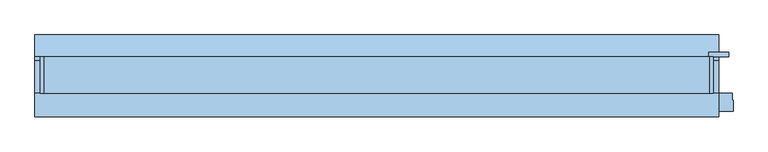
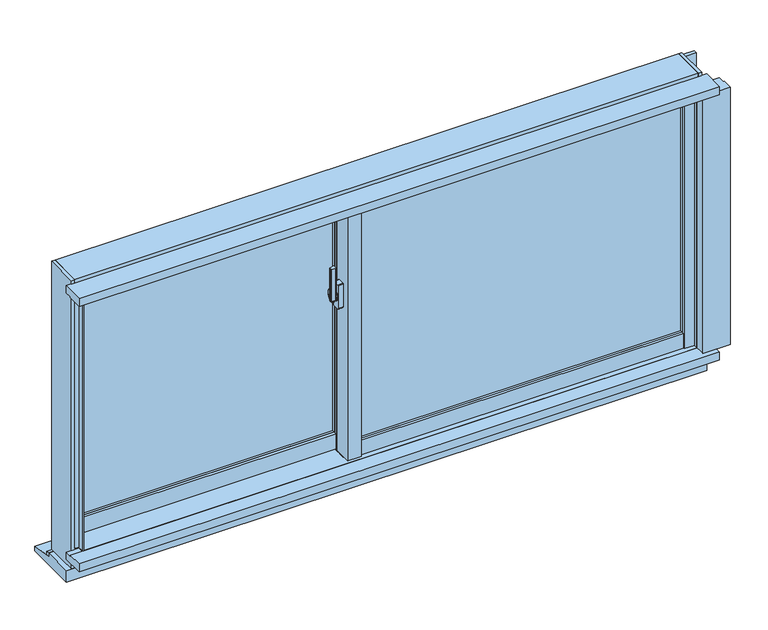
"""IFC4 building model written with IfcOpenShell, lengths in millimetres: window geometry, FNSⅡ100R_個別防火_RC枠_単窓 : 外動片引."""

from ifc_helpers import new_model, si_unit, point, frame, frame_2d, origin, place, context, project, spatial, polyline, circle_curve, trimmed, segment, composite_curve, outline, extrude, faceted_brep, source, transform, mapped, element, save
from ifc_brep_helpers import plane_surface, cylinder_surface, revolved_surface, advanced_brep


def window_cb9461ae(model_context):
    return source(origin(), model_context, "Body", "SolidModel", [
        extrude(outline(composite_curve([segment(polyline([(-139.0, -20.4), (-139.0, -28.6)]), True, "CONTINUOUS"), segment(trimmed(circle_curve(frame_2d((-141.0, -28.6)), 2.0), [point((-139.0, -28.6))], [point((-141.3606557, -30.5672131))], False, "CARTESIAN"), True, "CONTINUOUS"), segment(polyline([(-141.3606557, -30.5672131), (-152.3606557, -28.5505464)]), True, "CONTINUOUS"), segment(trimmed(circle_curve(frame_2d((-152.0, -26.5833333)), 2.0), [point((-152.3606557, -28.5505464))], [point((-154.0, -26.5833333))], False, "CARTESIAN"), True, "CONTINUOUS"), segment(polyline([(-154.0, -26.5833333), (-154.0, -22.4166667)]), True, "CONTINUOUS"), segment(trimmed(circle_curve(frame_2d((-152.0, -22.4166667)), 2.0), [point((-154.0, -22.4166667))], [point((-152.3606557, -20.4494536))], False, "CARTESIAN"), True, "CONTINUOUS"), segment(polyline([(-152.3606557, -20.4494536), (-141.3606557, -18.4327869)]), True, "CONTINUOUS"), segment(trimmed(circle_curve(frame_2d((-141.0, -20.4)), 2.0), [point((-141.3606557, -18.4327869))], [point((-139.0, -20.4))], False, "CARTESIAN"), True, "CONTINUOUS")], self_intersect=False)), frame((0.0, 0.0, 1390.0), z_axis=(0.0, 0.0, 1.0), x_axis=(1.0, 0.0, 0.0)), (0.0, 0.0, 1.0), 100.0),
        advanced_brep(
        [(-137.5, -16.1765715, 1421.7333311), (-145.5, -16.1765715, 1421.7333311), (-145.5, -16.5648001, 1420.2844424), (-139.0, -16.5648001, 1420.2844424), (-139.0, -18.3765334, 1413.5229616), (-137.5, -18.3765334, 1413.5229616), (-139.0, -18.3533883, 1379.3190372), (-145.5, -18.3533883, 1379.3190372), (-145.5, -18.092916, 1377.8418256), (-137.5, -18.092916, 1377.8418256), (-137.5, -19.5689255, 1386.2126915), (-139.0, -19.5689255, 1386.2126915)],
        [
            (0, 1),
            (1, 2),
            (2, 3),
            (3, 4),
            (4, 5),
            (5, 0),
            (6, 7),
            (7, 8),
            (8, 9),
            (9, 10),
            (10, 11),
            (11, 6),
            (0, 9, circle_curve(frame((-137.5, -22.0, 1400.0), z_axis=(-1.0, 0.0, 0.0), x_axis=(0.0, 0.25881904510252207, 0.965925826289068)), 22.5)),
            (8, 1, circle_curve(frame((-145.5, -22.0, 1400.0), z_axis=(1.0, 0.0, 0.0), x_axis=(0.0, 0.25881904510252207, 0.965925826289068)), 22.5)),
            (7, 2, circle_curve(frame((-145.5, -22.0, 1400.0), z_axis=(1.0, 0.0, 0.0), x_axis=(0.0, 0.25881904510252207, 0.965925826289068)), 21.0)),
            (6, 3, circle_curve(frame((-139.0, -22.0, 1400.0), z_axis=(1.0, 0.0, 0.0), x_axis=(0.0, 0.25881904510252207, 0.965925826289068)), 21.0)),
            (11, 4, circle_curve(frame((-139.0, -22.0, 1400.0), z_axis=(-1.0, 0.0, 0.0), x_axis=(0.0, -1.0, 0.0)), 14.0)),
            (5, 10, circle_curve(frame((-137.5, -22.0, 1400.0), z_axis=(1.0, 0.0, 0.0), x_axis=(0.0, -1.0, 0.0)), 14.0)),
        ],
        [
            plane_surface(frame((-143.5470497, -22.0, 1400.0), z_axis=(0.0, -0.965925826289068, 0.25881904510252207), x_axis=(0.0, 0.25881904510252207, 0.965925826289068))),
            plane_surface(frame((-143.5470497, -22.0, 1400.0), z_axis=(0.0, -0.9848077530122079, -0.17364817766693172), x_axis=(0.0, 0.17364817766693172, -0.9848077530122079))),
            cylinder_surface(frame((-143.5470497, -22.0, 1400.0), z_axis=(-1.0, 0.0, 0.0), x_axis=(0.0, 0.25881904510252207, 0.965925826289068)), 22.5),
            plane_surface(frame((-145.5, -22.0, 1400.0), z_axis=(-1.0, 0.0, 0.0), x_axis=(0.0, 0.25881904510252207, 0.965925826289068))),
            revolved_surface(polyline([(-145.5, -16.564800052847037, 1420.2844423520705), (-139.0, -16.564800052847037, 1420.2844423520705)]), (-143.5470497, -22.0, 1400.0), (-1.0, 0.0, 0.0)),
            plane_surface(frame((-139.0, -22.0, 1400.0), z_axis=(-1.0, 0.0, 0.0), x_axis=(0.0, 0.25881904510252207, 0.965925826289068))),
            plane_surface(frame((-137.5, -22.0, 1400.0), z_axis=(1.0, 0.0, 0.0), x_axis=(0.0, 0.25881904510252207, 0.965925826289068))),
            cylinder_surface(frame((-137.5, -22.0, 1400.0), z_axis=(-1.0, 0.0, 0.0), x_axis=(0.0, -1.0, 0.0)), 14.0),
        ],
        [
            (0, [[1, 2, 3, 4, 5, 6]]),
            (1, [[7, 8, 9, 10, 11, 12]]),
            (2, [[-1, 13, -9, 14]]),
            (3, [[-2, -14, -8, 15]]),
            (4, [[-3, -15, -7, 16]]),
            (5, [[-16, -12, 17, -4]]),
            (6, [[-13, -6, 18, -10]]),
            (7, [[-17, -11, -18, -5]]),
        ],
    ),
        extrude(outline(composite_curve([segment(trimmed(circle_curve(frame_2d((-22.0, 1400.0)), 11.5), [point((-10.5, 1400.0))], [point((-33.5, 1400.0))], False, "CARTESIAN"), True, "CONTINUOUS"), segment(trimmed(circle_curve(frame_2d((-22.0, 1400.0)), 11.5), [point((-33.5, 1400.0))], [point((-10.5, 1400.0))], False, "CARTESIAN"), True, "CONTINUOUS")], self_intersect=False)), frame((-137.5, 0.0, 0.0), z_axis=(1.0, 0.0, 0.0), x_axis=(0.0, 1.0, 0.0)), (0.0, 0.0, 1.0), 2.5),
        extrude(outline(composite_curve([segment(polyline([(-31.0, 1437.5), (-13.0, 1437.5)]), True, "CONTINUOUS"), segment(trimmed(circle_curve(frame_2d((-13.0, 1435.5)), 2.0), [point((-13.0, 1437.5))], [point((-11.0, 1435.5))], False, "CARTESIAN"), True, "CONTINUOUS"), segment(polyline([(-11.0, 1435.5), (-11.0, 1364.5)]), True, "CONTINUOUS"), segment(trimmed(circle_curve(frame_2d((-13.0, 1364.5)), 2.0), [point((-11.0, 1364.5))], [point((-13.0, 1362.5))], False, "CARTESIAN"), True, "CONTINUOUS"), segment(polyline([(-13.0, 1362.5), (-31.0, 1362.5)]), True, "CONTINUOUS"), segment(trimmed(circle_curve(frame_2d((-31.0, 1364.5)), 2.0), [point((-31.0, 1362.5))], [point((-33.0, 1364.5))], False, "CARTESIAN"), True, "CONTINUOUS"), segment(polyline([(-33.0, 1364.5), (-33.0, 1435.5)]), True, "CONTINUOUS"), segment(trimmed(circle_curve(frame_2d((-31.0, 1435.5)), 2.0), [point((-33.0, 1435.5))], [point((-31.0, 1437.5))], False, "CARTESIAN"), True, "CONTINUOUS")], self_intersect=False)), frame((-135.0, 0.0, 0.0), z_axis=(1.0, 0.0, 0.0), x_axis=(0.0, 1.0, 0.0)), (0.0, 0.0, 1.0), 15.0),
        extrude(outline(polyline([(-80.0, -31.0), (868.0, -31.0), (868.0, -37.0), (-80.0, -37.0), (-80.0, -31.0)])), frame((0.0, 0.0, 948.0), z_axis=(0.0, 0.0, 1.0), x_axis=(1.0, 0.0, 0.0)), (0.0, 0.0, 1.0), 712.0),
        extrude(outline(polyline([(-80.0, -13.0), (868.0, -13.0), (868.0, -19.0), (-80.0, -19.0), (-80.0, -13.0)])), frame((0.0, 0.0, 948.0), z_axis=(0.0, 0.0, 1.0), x_axis=(1.0, 0.0, 0.0)), (0.0, 0.0, 1.0), 712.0),
        extrude(outline(polyline([(-868.0, 27.0), (-120.0, 27.0), (-120.0, 21.0), (-868.0, 21.0), (-868.0, 27.0)])), frame((0.0, 0.0, 948.0), z_axis=(0.0, 0.0, 1.0), x_axis=(1.0, 0.0, 0.0)), (0.0, 0.0, 1.0), 712.0),
        extrude(outline(polyline([(-868.0, 45.0), (-120.0, 45.0), (-120.0, 39.0), (-868.0, 39.0), (-868.0, 45.0)])), frame((0.0, 0.0, 948.0), z_axis=(0.0, 0.0, 1.0), x_axis=(1.0, 0.0, 0.0)), (0.0, 0.0, 1.0), 712.0),
        faceted_brep([(-900.0, 24.0, 1700.0), (-889.5, 24.0, 1700.0), (-889.5, 11.0, 1700.0), (-868.0, 11.0, 1700.0), (-868.0, 53.0, 1700.0), (-900.0, 53.0, 1700.0), (-868.0, 24.0, 860.0), (-900.0, 24.0, 860.0), (-900.0, 53.0, 860.0), (-868.0, 53.0, 860.0), (-868.0, 24.0, 900.0), (-889.5, 24.0, 900.0), (-889.5, 11.0, 900.0), (-868.0, 11.0, 900.0)], [[[0, 1, 2, 3, 4, 5]], [[6, 7, 8, 9]], [[1, 0, 7, 6, 10, 11]], [[2, 1, 11, 12]], [[3, 2, 12, 13]], [[4, 3, 13, 10, 6, 9]], [[5, 4, 9, 8]], [[7, 0, 5, 8]], [[11, 10, 13, 12]]]),
        faceted_brep([(-80.0, 24.0, 900.0), (-120.0, 24.0, 900.0), (-120.0, 24.0, 860.0), (-80.0, 24.0, 860.0), (-120.0, 10.5, 1700.0), (-101.8, 10.5, 1700.0), (-101.8, -1.9, 1700.0), (-80.0, -1.9, 1700.0), (-80.0, 53.0, 1700.0), (-120.0, 53.0, 1700.0), (-120.0, 53.0, 860.0), (-80.0, 53.0, 860.0), (-120.0, 10.5, 900.0), (-101.8, 10.5, 900.0), (-101.8, -1.9, 900.0), (-80.0, -1.9, 900.0)], [[[0, 1, 2, 3]], [[4, 5, 6, 7, 8, 9]], [[10, 11, 3, 2]], [[5, 4, 12, 13]], [[6, 5, 13, 14]], [[7, 6, 14, 15]], [[8, 7, 15, 0, 3, 11]], [[9, 8, 11, 10]], [[4, 9, 10, 2, 1, 12]], [[1, 0, 15, 14, 13, 12]]]),
        extrude(outline(polyline([(-120.0, -1.9), (-115.0, -1.9), (-115.0, -47.0), (-82.6, -47.0), (-82.6, -43.0), (-80.0, -43.0), (-80.0, -55.0), (-120.0, -55.0), (-120.0, -1.9)])), frame((0.0, 0.0, 900.0), z_axis=(0.0, 0.0, 1.0), x_axis=(1.0, 0.0, 0.0)), (0.0, 0.0, 1.0), 800.0),
        extrude(outline(polyline([(-115.0, -1.9), (-80.0, -1.9), (-80.0, -43.0), (-82.6, -43.0), (-82.6, -47.0), (-115.0, -47.0), (-115.0, -1.9)])), frame((0.0, 0.0, 900.0), z_axis=(0.0, 0.0, 1.0), x_axis=(1.0, 0.0, 0.0)), (0.0, 0.0, 1.0), 800.0),
        extrude(outline(polyline([(868.0, -55.0), (868.0, -47.0), (889.5, -47.0), (889.5, -34.0), (897.0, -34.0), (897.0, -55.0), (868.0, -55.0)])), frame((0.0, 0.0, 903.0), z_axis=(0.0, 0.0, 1.0), x_axis=(1.0, 0.0, 0.0)), (0.0, 0.0, 1.0), 797.0),
        extrude(outline(polyline([(868.0, -5.0), (900.0, -5.0), (900.0, -34.0), (889.5, -34.0), (889.5, -47.0), (868.0, -47.0), (868.0, -5.0)])), frame((0.0, 0.0, 900.0), z_axis=(0.0, 0.0, 1.0), x_axis=(1.0, 0.0, 0.0)), (0.0, 0.0, 1.0), 800.0),
        extrude(outline(polyline([(-101.8, 10.5), (-101.8, 3.0), (-120.0, 3.0), (-120.0, 10.5), (-101.8, 10.5)])), frame((0.0, 0.0, 900.0), z_axis=(0.0, 0.0, 1.0), x_axis=(1.0, 0.0, 0.0)), (0.0, 0.0, 1.0), 800.0),
        extrude(outline(polyline([(-897.0, 24.0), (-889.5, 24.0), (-889.5, 11.0), (-868.0, 11.0), (-868.0, 3.0), (-897.0, 3.0), (-897.0, 24.0)])), frame((0.0, 0.0, 900.0), z_axis=(0.0, 0.0, 1.0), x_axis=(1.0, 0.0, 0.0)), (0.0, 0.0, 1.0), 800.0),
        extrude(outline(polyline([(-53.0, 903.0), (-53.0, 948.0), (-45.0, 948.0), (-45.0, 925.5), (-34.0, 925.5), (-34.0, 903.0), (-53.0, 903.0)])), frame((-80.0, 0.0, 0.0), z_axis=(1.0, 0.0, 0.0), x_axis=(0.0, 1.0, 0.0)), (0.0, 0.0, 1.0), 948.0),
        extrude(outline(polyline([(-5.0, 900.0), (-34.0, 900.0), (-34.0, 925.5), (-45.0, 925.5), (-45.0, 948.0), (-5.0, 948.0), (-5.0, 900.0)])), frame((-80.0, 0.0, 0.0), z_axis=(1.0, 0.0, 0.0), x_axis=(0.0, 1.0, 0.0)), (0.0, 0.0, 1.0), 948.0),
        extrude(outline(polyline([(5.0, 948.0), (13.0, 948.0), (13.0, 925.5), (24.0, 925.5), (24.0, 900.0), (5.0, 900.0), (5.0, 948.0)])), frame((-868.0, 0.0, 0.0), z_axis=(1.0, 0.0, 0.0), x_axis=(0.0, 1.0, 0.0)), (0.0, 0.0, 1.0), 748.0),
        extrude(outline(polyline([(53.0, 860.0), (24.0, 860.0), (24.0, 925.5), (13.0, 925.5), (13.0, 948.0), (53.0, 948.0), (53.0, 860.0)])), frame((-868.0, 0.0, 0.0), z_axis=(1.0, 0.0, 0.0), x_axis=(0.0, 1.0, 0.0)), (0.0, 0.0, 1.0), 748.0),
        extrude(outline(polyline([(-32.0, 1680.5), (-45.0, 1680.5), (-45.0, 1660.0), (-53.0, 1660.0), (-53.0, 1700.0), (-32.0, 1700.0), (-32.0, 1680.5)])), frame((-80.0, 0.0, 0.0), z_axis=(1.0, 0.0, 0.0), x_axis=(0.0, 1.0, 0.0)), (0.0, 0.0, 1.0), 948.0),
        extrude(outline(polyline([(-5.0, 1700.0), (-5.0, 1660.0), (-45.0, 1660.0), (-45.0, 1680.5), (-32.0, 1680.5), (-32.0, 1700.0), (-5.0, 1700.0)])), frame((-80.0, 0.0, 0.0), z_axis=(1.0, 0.0, 0.0), x_axis=(0.0, 1.0, 0.0)), (0.0, 0.0, 1.0), 948.0),
        extrude(outline(polyline([(26.0, 1680.5), (13.0, 1680.5), (13.0, 1660.0), (5.0, 1660.0), (5.0, 1700.0), (26.0, 1700.0), (26.0, 1680.5)])), frame((-868.0, 0.0, 0.0), z_axis=(1.0, 0.0, 0.0), x_axis=(0.0, 1.0, 0.0)), (0.0, 0.0, 1.0), 748.0),
        extrude(outline(polyline([(53.0, 1700.0), (53.0, 1660.0), (13.0, 1660.0), (13.0, 1680.5), (26.0, 1680.5), (26.0, 1700.0), (53.0, 1700.0)])), frame((-868.0, 0.0, 0.0), z_axis=(1.0, 0.0, 0.0), x_axis=(0.0, 1.0, 0.0)), (0.0, 0.0, 1.0), 748.0),
        extrude(outline(polyline([(-122.0, 25.3), (-122.0, -23.1), (-900.0, -23.1), (-900.0, 25.3), (-122.0, 25.3)])), frame((0.0, 0.0, 1700.0), z_axis=(0.0, 0.0, 1.0), x_axis=(1.0, 0.0, 0.0)), (0.0, 0.0, 1.0), 25.0),
        faceted_brep([(915.0, 25.3, 1725.0), (915.0, -45.0, 1725.0), (-915.0, -45.0, 1725.0), (-915.0, 25.3, 1725.0), (-122.0, 25.3, 1725.0), (-122.0, -23.1, 1725.0), (900.0, -23.1, 1725.0), (900.0, 25.3, 1725.0), (915.0, 25.3, 1700.0), (900.0, 25.3, 1700.0), (-915.0, 25.3, 1700.0), (-122.0, 25.3, 1700.0), (915.0, 55.0, 1700.0), (900.0, -23.1, 1700.0), (-122.0, -23.1, 1700.0), (-915.0, 55.0, 1700.0), (915.0, 55.0, 1735.0), (-915.0, 55.0, 1735.0), (915.0, -45.0, 1735.0), (-915.0, -45.0, 1735.0)], [[[0, 1, 2, 3, 4, 5, 6, 7]], [[8, 0, 7, 9]], [[3, 10, 11, 4]], [[12, 8, 9, 13, 14, 11, 10, 15]], [[16, 12, 15, 17]], [[18, 16, 17, 19]], [[1, 18, 19, 2]], [[12, 16, 18, 1, 0, 8]], [[15, 10, 3, 2, 19, 17]], [[6, 13, 9, 7]], [[11, 14, 5, 4]], [[13, 6, 5, 14]]]),
        extrude(outline(polyline([(-23.1, 1700.0), (-65.0, 1700.0), (-65.0, 1703.0), (-45.0, 1703.0), (-45.0, 1725.0), (-23.1, 1725.0), (-23.1, 1700.0)])), frame((-900.0, 0.0, 0.0), z_axis=(1.0, 0.0, 0.0), x_axis=(0.0, 1.0, 0.0)), (0.0, 0.0, 1.0), 1800.0),
        faceted_brep([(900.0, -45.0, 1720.0), (915.0, -45.0, 1720.0), (915.0, -40.5, 1720.0), (900.0, -40.5, 1720.0), (900.0, -65.0, 900.0), (900.0, -40.5, 900.0), (915.0, -40.5, 900.0), (915.0, -45.0, 900.0), (903.0, -45.0, 900.0), (903.0, -65.0, 900.0), (903.0, -65.0, 1703.0), (900.0, -65.0, 1703.0), (903.0, -45.0, 1703.0), (900.0, -45.0, 1703.0)], [[[0, 1, 2, 3]], [[4, 5, 6, 7, 8, 9]], [[4, 9, 10, 11]], [[9, 8, 12, 10]], [[0, 13, 12, 8, 7, 1]], [[2, 1, 7, 6]], [[3, 2, 6, 5]], [[5, 4, 11, 13, 0, 3]], [[12, 13, 11, 10]]]),
        faceted_brep([(-915.0, -45.0, 1720.0), (-900.0, -45.0, 1720.0), (-900.0, 21.0, 1720.0), (-915.0, 21.0, 1720.0), (-915.0, -45.0, 900.0), (-915.0, 21.0, 900.0), (-900.0, 21.0, 900.0), (-900.0, -65.0, 900.0), (-903.0, -65.0, 900.0), (-903.0, -45.0, 900.0), (-903.0, -45.0, 1703.0), (-900.0, -45.0, 1703.0), (-903.0, -65.0, 1703.0), (-900.0, -65.0, 1703.0)], [[[0, 1, 2, 3]], [[4, 5, 6, 7, 8, 9]], [[4, 9, 10, 11, 1, 0]], [[9, 8, 12, 10]], [[8, 7, 13, 12]], [[7, 6, 2, 1, 11, 13]], [[3, 2, 6, 5]], [[4, 0, 3, 5]], [[11, 10, 12, 13]]]),
        faceted_brep([(-925.0, 55.0, 1735.0), (-925.0, -45.0, 1735.0), (-915.0, -45.0, 1735.0), (-915.0, 55.0, 1735.0), (-925.0, 55.0, 840.0), (-915.0, 55.0, 840.0), (-915.0, -45.0, 840.0), (-925.0, -45.0, 840.0), (-915.0, 55.0, 849.0), (-915.0, 21.0, 849.0), (-915.0, 21.0, 1700.0), (-915.0, 55.0, 1700.0), (-900.0, 55.0, 1700.0), (-900.0, 55.0, 849.0), (-900.0, 21.0, 1700.0), (-900.0, 21.0, 849.0)], [[[0, 1, 2, 3]], [[4, 5, 6, 7]], [[1, 0, 4, 7]], [[2, 1, 7, 6]], [[3, 2, 6, 5, 8, 9, 10, 11]], [[0, 3, 11, 12, 13, 8, 5, 4]], [[12, 11, 10, 14]], [[13, 15, 9, 8]], [[14, 10, 9, 15]], [[12, 14, 15, 13]]]),
        faceted_brep([(915.0, -45.0, 1735.0), (925.0, -45.0, 1735.0), (925.0, 55.0, 1735.0), (915.0, 55.0, 1735.0), (915.0, -45.0, 840.0), (915.0, 55.0, 840.0), (925.0, 55.0, 840.0), (925.0, -45.0, 840.0), (915.0, -40.5, 1700.0), (900.0, -40.5, 1700.0), (900.0, -40.5, 849.0), (915.0, -40.5, 849.0), (900.0, 55.0, 1700.0), (900.0, 55.0, 849.0), (915.0, 55.0, 1700.0), (915.0, 55.0, 849.0)], [[[0, 1, 2, 3]], [[4, 5, 6, 7]], [[8, 9, 10, 11]], [[9, 12, 13, 10]], [[9, 8, 14, 12]], [[10, 13, 15, 11]], [[1, 0, 4, 7]], [[2, 1, 7, 6]], [[3, 2, 6, 5, 15, 13, 12, 14]], [[0, 3, 14, 8, 11, 15, 5, 4]]]),
        faceted_brep([(900.0, -17.75, 900.0), (900.0, -17.75, 884.0), (-122.0, -17.75, 884.0), (-122.0, -17.75, 900.0), (915.0, -45.0, 884.0), (915.0, 21.0, 884.0), (-915.0, 21.0, 884.0), (-915.0, -45.0, 884.0), (900.0, -36.2, 884.0), (-122.0, -36.2, 884.0), (915.0, 21.0, 849.0), (-915.0, 21.0, 849.0), (915.0, 55.0, 849.0), (-915.0, 55.0, 849.0), (915.0, 55.0, 840.0), (915.0, -45.0, 840.0), (-915.0, -45.0, 840.0), (-915.0, 55.0, 840.0), (900.0, -36.2, 900.0), (-122.0, -36.2, 900.0)], [[[0, 1, 2, 3]], [[4, 5, 6, 7], [1, 8, 9, 2]], [[5, 10, 11, 6]], [[10, 12, 13, 11]], [[14, 15, 16, 17]], [[14, 12, 10, 5, 4, 15]], [[17, 16, 7, 6, 11, 13]], [[15, 4, 7, 16]], [[12, 14, 17, 13]], [[18, 8, 1, 0]], [[19, 3, 2, 9]], [[8, 18, 19, 9]], [[18, 0, 3, 19]]]),
        faceted_brep([(-900.0, 21.0, 900.0), (-900.0, 21.0, 884.0), (-900.0, -36.2, 884.0), (-900.0, -36.2, 900.0), (903.0, -65.0, 900.0), (903.0, -65.0, 897.0), (903.0, -45.0, 897.0), (903.0, -45.0, 884.0), (903.0, -40.5, 884.0), (903.0, -40.5, 900.0), (-903.0, -45.0, 884.0), (-903.0, -45.0, 897.0), (-903.0, -65.0, 897.0), (-903.0, -65.0, 900.0), (-903.0, -36.2, 900.0), (-903.0, -36.2, 884.0), (900.0, -40.5, 900.0), (900.0, -36.2, 900.0), (-122.0, -36.2, 900.0), (-122.0, 21.0, 900.0), (900.0, -36.2, 884.0), (-122.0, -36.2, 884.0), (-122.0, 21.0, 884.0), (900.0, -40.5, 884.0)], [[[0, 1, 2, 3]], [[4, 5, 6, 7, 8, 9]], [[10, 11, 12, 13, 14, 15]], [[7, 6, 11, 10]], [[6, 5, 12, 11]], [[5, 4, 13, 12]], [[14, 13, 4, 9, 16, 17, 18, 19, 0, 3]], [[15, 14, 3, 2]], [[17, 20, 21, 18]], [[10, 15, 2, 1, 22, 21, 20, 23, 8, 7]], [[16, 23, 20, 17]], [[23, 16, 9, 8]], [[19, 18, 21, 22]], [[19, 22, 1, 0]]]),
        extrude(outline(polyline([(-110.0, 900.0), (-65.0, 900.0), (-65.0, 897.0), (-45.0, 897.0), (-45.0, 875.0), (-110.0, 875.0), (-110.0, 900.0)])), frame((-940.0, 0.0, 0.0), z_axis=(1.0, 0.0, 0.0), x_axis=(0.0, 1.0, 0.0)), (0.0, 0.0, 1.0), 1880.0),
        extrude(outline(polyline([(45.0, 840.0), (55.0, 840.0), (55.0, 828.4285714), (45.0, 830.0), (45.0, 840.0)])), frame((-940.0, 0.0, 0.0), z_axis=(1.0, 0.0, 0.0), x_axis=(0.0, 1.0, 0.0)), (0.0, 0.0, 1.0), 1880.0),
        extrude(outline(polyline([(-45.0, 804.0), (-45.0, 840.0), (45.0, 840.0), (45.0, 830.0), (115.0, 819.0), (115.0, 804.0), (-45.0, 804.0)])), frame((-940.0, 0.0, 0.0), z_axis=(1.0, 0.0, 0.0), x_axis=(0.0, 1.0, 0.0)), (0.0, 0.0, 1.0), 1880.0),
        extrude(outline(polyline([(903.0, -65.0), (903.0, -45.0), (977.0, -45.0), (977.0, -65.0), (980.0, -65.0), (980.0, -95.0), (900.0, -95.0), (900.0, -65.0), (903.0, -65.0)])), frame((0.0, 0.0, 900.0), z_axis=(0.0, 0.0, 1.0), x_axis=(1.0, 0.0, 0.0)), (0.0, 0.0, 1.0), 800.0),
        extrude(outline(polyline([(967.5, 55.0), (912.5, 55.0), (912.5, 67.0), (967.5, 67.0), (967.5, 55.0)])), frame((0.0, 0.0, 840.0), z_axis=(0.0, 0.0, 1.0), x_axis=(1.0, 0.0, 0.0)), (0.0, 0.0, 1.0), 880.0),
        extrude(outline(polyline([(-110.0, 1725.0), (-45.0, 1725.0), (-45.0, 1703.0), (-65.0, 1703.0), (-65.0, 1700.0), (-110.0, 1700.0), (-110.0, 1725.0)])), frame((-940.0, 0.0, 0.0), z_axis=(1.0, 0.0, 0.0), x_axis=(0.0, 1.0, 0.0)), (0.0, 0.0, 1.0), 1880.0),
    ])


if __name__ == "__main__":
    model = new_model("IFC4")
    model_context = context("Model", 3, world=origin())
    ifc_project = project(units=[si_unit("LENGTHUNIT", "METRE", prefix="MILLI")], contexts=[model_context])
    site = spatial("IfcSite", under=ifc_project)
    building = spatial("IfcBuilding", under=site)
    placement = place(None, origin())
    window_shape = window_cb9461ae(model_context)
    element("IfcWindow", 1, ObjectType="FNSⅡ100R_個別防火_RC枠_単窓 : 外動片引", at=placement, inside=building, context=model_context, shape_type="MappedRepresentation", body=[
        mapped(window_shape, transform((0.0, 0.0, 0.0), x_axis=(1.0, 0.0, 0.0), y_axis=(0.0, 1.0, 0.0), z_axis=(0.0, 0.0, 1.0))),
    ])
    save(model, "model.ifc")
